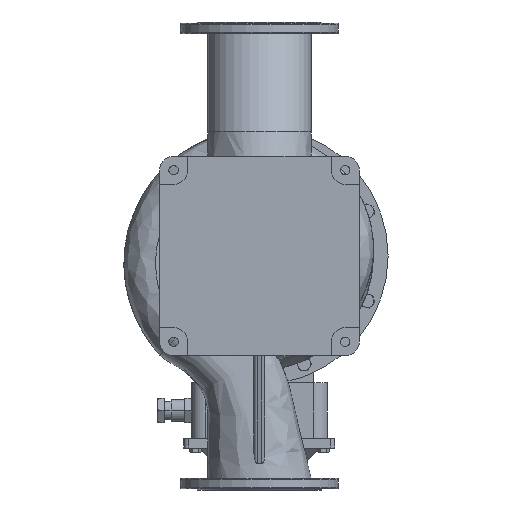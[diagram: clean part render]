
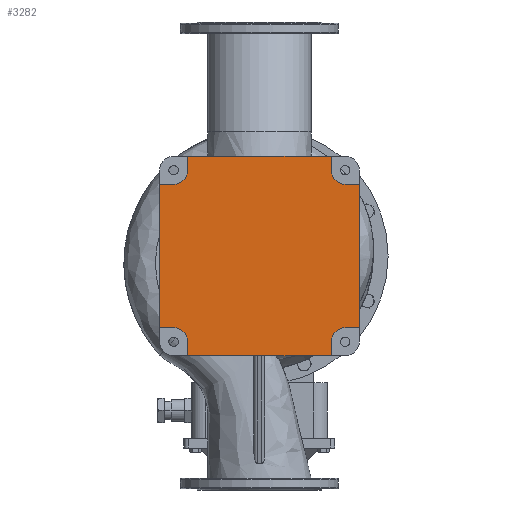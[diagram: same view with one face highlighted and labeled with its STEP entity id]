
A CAD part, front view. The second image highlights one B-rep face of the part: STEP entity #3282.
In plain terms, the highlighted planar face has unit normal (0, -1, 0).
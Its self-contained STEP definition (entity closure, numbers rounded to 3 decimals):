
#345 = DIRECTION ( 'NONE',  ( 0., 0., 1. ) ) ;
#387 = CARTESIAN_POINT ( 'NONE',  ( 220., -300., 184. ) ) ;
#593 = VERTEX_POINT ( 'NONE', #55317 ) ;
#840 = DIRECTION ( 'NONE',  ( 0., 1., 0. ) ) ;
#1957 = EDGE_CURVE ( 'NONE', #16776, #57555, #81527, .T. ) ;
#2641 = LINE ( 'NONE', #44818, #48955 ) ;
#3282 = ADVANCED_FACE ( 'NONE', ( #82302 ), #50288, .F. ) ;
#3420 = DIRECTION ( 'NONE',  ( 0., 0., 1. ) ) ;
#4261 = ORIENTED_EDGE ( 'NONE', *, *, #35806, .T. ) ;
#4484 = DIRECTION ( 'NONE',  ( -1., 0., 0. ) ) ;
#4730 = CARTESIAN_POINT ( 'NONE',  ( -184., -300., -220. ) ) ;
#5391 = EDGE_CURVE ( 'NONE', #26889, #26450, #72721, .T. ) ;
#5408 = VERTEX_POINT ( 'NONE', #18073 ) ;
#5453 = DIRECTION ( 'NONE',  ( 0., 0., -1. ) ) ;
#6338 = AXIS2_PLACEMENT_3D ( 'NONE', #28287, #68744, #345 ) ;
#6644 = CARTESIAN_POINT ( 'NONE',  ( 220., -300., -220. ) ) ;
#6758 = ORIENTED_EDGE ( 'NONE', *, *, #30969, .T. ) ;
#7987 = LINE ( 'NONE', #70183, #81498 ) ;
#9329 = DIRECTION ( 'NONE',  ( -1., 0., 0. ) ) ;
#9587 = ORIENTED_EDGE ( 'NONE', *, *, #62488, .T. ) ;
#9865 = VECTOR ( 'NONE', #5453, 1000. ) ;
#10269 = CARTESIAN_POINT ( 'NONE',  ( -184., -300., 256. ) ) ;
#10494 = EDGE_CURVE ( 'NONE', #63397, #16776, #84573, .T. ) ;
#10962 = EDGE_CURVE ( 'NONE', #50257, #28113, #58689, .T. ) ;
#11156 = AXIS2_PLACEMENT_3D ( 'NONE', #83531, #49314, #36842 ) ;
#13899 = VECTOR ( 'NONE', #46144, 1000. ) ;
#13978 = DIRECTION ( 'NONE',  ( 0., 0., 1. ) ) ;
#14324 = VECTOR ( 'NONE', #17032, 1000. ) ;
#15206 = DIRECTION ( 'NONE',  ( 1., 0., 0. ) ) ;
#15741 = CARTESIAN_POINT ( 'NONE',  ( -184., -300., -256. ) ) ;
#16776 = VERTEX_POINT ( 'NONE', #85662 ) ;
#17032 = DIRECTION ( 'NONE',  ( 1., 0., 0. ) ) ;
#17637 = DIRECTION ( 'NONE',  ( 0., 0., -1. ) ) ;
#18073 = CARTESIAN_POINT ( 'NONE',  ( -184., -300., 220. ) ) ;
#21677 = CARTESIAN_POINT ( 'NONE',  ( 256., -300., 184. ) ) ;
#22102 = EDGE_LOOP ( 'NONE', ( #29423, #61268, #47093, #35891, #44607, #82048, #84438, #53896, #9587, #29379, #28177, #4261, #56662, #29519, #42071, #6758 ) ) ;
#22695 = CARTESIAN_POINT ( 'NONE',  ( 184., -300., -220. ) ) ;
#23687 = CARTESIAN_POINT ( 'NONE',  ( 220., -300., -184. ) ) ;
#26267 = DIRECTION ( 'NONE',  ( 1., 0., 0. ) ) ;
#26302 = LINE ( 'NONE', #67194, #62200 ) ;
#26450 = VERTEX_POINT ( 'NONE', #15741 ) ;
#26543 = CARTESIAN_POINT ( 'NONE',  ( 184., -300., 220. ) ) ;
#26630 = CARTESIAN_POINT ( 'NONE',  ( -256., -300., 184. ) ) ;
#26889 = VERTEX_POINT ( 'NONE', #4730 ) ;
#28113 = VERTEX_POINT ( 'NONE', #40337 ) ;
#28177 = ORIENTED_EDGE ( 'NONE', *, *, #10962, .T. ) ;
#28287 = CARTESIAN_POINT ( 'NONE',  ( -220., -300., 220. ) ) ;
#29379 = ORIENTED_EDGE ( 'NONE', *, *, #34402, .T. ) ;
#29423 = ORIENTED_EDGE ( 'NONE', *, *, #44650, .T. ) ;
#29519 = ORIENTED_EDGE ( 'NONE', *, *, #74530, .T. ) ;
#30459 = CARTESIAN_POINT ( 'NONE',  ( -220., -300., 184. ) ) ;
#30969 = EDGE_CURVE ( 'NONE', #74028, #74114, #53839, .T. ) ;
#31024 = VERTEX_POINT ( 'NONE', #22695 ) ;
#32932 = CARTESIAN_POINT ( 'NONE',  ( -220., -300., -184. ) ) ;
#34402 = EDGE_CURVE ( 'NONE', #593, #50257, #79478, .T. ) ;
#34441 = DIRECTION ( 'NONE',  ( 0., 0., -1. ) ) ;
#34868 = LINE ( 'NONE', #62002, #51189 ) ;
#35806 = EDGE_CURVE ( 'NONE', #28113, #5408, #72555, .T. ) ;
#35891 = ORIENTED_EDGE ( 'NONE', *, *, #46380, .T. ) ;
#36842 = DIRECTION ( 'NONE',  ( 0., 0., 1. ) ) ;
#39762 = CARTESIAN_POINT ( 'NONE',  ( -220., -300., -184. ) ) ;
#39921 = EDGE_CURVE ( 'NONE', #73170, #74028, #34868, .T. ) ;
#40337 = CARTESIAN_POINT ( 'NONE',  ( -184., -300., 256. ) ) ;
#40413 = CARTESIAN_POINT ( 'NONE',  ( -220., -300., -220. ) ) ;
#42071 = ORIENTED_EDGE ( 'NONE', *, *, #39921, .T. ) ;
#43485 = DIRECTION ( 'NONE',  ( 1., 0., 0. ) ) ;
#43614 = DIRECTION ( 'NONE',  ( 0., 1., 0. ) ) ;
#44607 = ORIENTED_EDGE ( 'NONE', *, *, #84951, .T. ) ;
#44650 = EDGE_CURVE ( 'NONE', #74114, #26889, #65717, .T. ) ;
#44818 = CARTESIAN_POINT ( 'NONE',  ( 184., -300., -256. ) ) ;
#46144 = DIRECTION ( 'NONE',  ( 0., 0., 1. ) ) ;
#46380 = EDGE_CURVE ( 'NONE', #83906, #31024, #64284, .T. ) ;
#47093 = ORIENTED_EDGE ( 'NONE', *, *, #73440, .T. ) ;
#48530 = CARTESIAN_POINT ( 'NONE',  ( -220., -300., -220. ) ) ;
#48955 = VECTOR ( 'NONE', #43485, 1000. ) ;
#49314 = DIRECTION ( 'NONE',  ( 0., 1., 0. ) ) ;
#49807 = AXIS2_PLACEMENT_3D ( 'NONE', #6644, #840, #75046 ) ;
#50156 = AXIS2_PLACEMENT_3D ( 'NONE', #48530, #43614, #15206 ) ;
#50257 = VERTEX_POINT ( 'NONE', #55030 ) ;
#50288 = PLANE ( 'NONE',  #50156 ) ;
#51189 = VECTOR ( 'NONE', #34441, 1000. ) ;
#51399 = CARTESIAN_POINT ( 'NONE',  ( -184., -300., -220. ) ) ;
#51513 = AXIS2_PLACEMENT_3D ( 'NONE', #40413, #53329, #80429 ) ;
#53329 = DIRECTION ( 'NONE',  ( 0., 1., 0. ) ) ;
#53839 = LINE ( 'NONE', #32932, #86168 ) ;
#53871 = DIRECTION ( 'NONE',  ( -1., 0., 0. ) ) ;
#53896 = ORIENTED_EDGE ( 'NONE', *, *, #79486, .T. ) ;
#55030 = CARTESIAN_POINT ( 'NONE',  ( 184., -300., 256. ) ) ;
#55317 = CARTESIAN_POINT ( 'NONE',  ( 184., -300., 220. ) ) ;
#56662 = ORIENTED_EDGE ( 'NONE', *, *, #74882, .T. ) ;
#57555 = VERTEX_POINT ( 'NONE', #21677 ) ;
#57678 = VECTOR ( 'NONE', #13978, 1000. ) ;
#57958 = CIRCLE ( 'NONE', #11156, 36. ) ;
#58689 = LINE ( 'NONE', #10269, #71111 ) ;
#58839 = VERTEX_POINT ( 'NONE', #387 ) ;
#61268 = ORIENTED_EDGE ( 'NONE', *, *, #5391, .T. ) ;
#62002 = CARTESIAN_POINT ( 'NONE',  ( -256., -300., -184. ) ) ;
#62200 = VECTOR ( 'NONE', #53871, 1000. ) ;
#62488 = EDGE_CURVE ( 'NONE', #58839, #593, #57958, .T. ) ;
#62613 = CIRCLE ( 'NONE', #49807, 36. ) ;
#63397 = VERTEX_POINT ( 'NONE', #68412 ) ;
#64284 = LINE ( 'NONE', #84293, #81417 ) ;
#65717 = CIRCLE ( 'NONE', #51513, 36. ) ;
#65961 = CIRCLE ( 'NONE', #6338, 36. ) ;
#67194 = CARTESIAN_POINT ( 'NONE',  ( 220., -300., 184. ) ) ;
#68412 = CARTESIAN_POINT ( 'NONE',  ( 220., -300., -184. ) ) ;
#68744 = DIRECTION ( 'NONE',  ( 0., 1., 0. ) ) ;
#69474 = VERTEX_POINT ( 'NONE', #30459 ) ;
#69676 = CARTESIAN_POINT ( 'NONE',  ( 184., -300., -256. ) ) ;
#70183 = CARTESIAN_POINT ( 'NONE',  ( -220., -300., 184. ) ) ;
#71111 = VECTOR ( 'NONE', #4484, 1000. ) ;
#72555 = LINE ( 'NONE', #87628, #9865 ) ;
#72721 = LINE ( 'NONE', #51399, #85914 ) ;
#73170 = VERTEX_POINT ( 'NONE', #26630 ) ;
#73440 = EDGE_CURVE ( 'NONE', #26450, #83906, #2641, .T. ) ;
#74028 = VERTEX_POINT ( 'NONE', #76728 ) ;
#74114 = VERTEX_POINT ( 'NONE', #39762 ) ;
#74530 = EDGE_CURVE ( 'NONE', #69474, #73170, #7987, .T. ) ;
#74846 = CARTESIAN_POINT ( 'NONE',  ( 256., -300., 184. ) ) ;
#74882 = EDGE_CURVE ( 'NONE', #5408, #69474, #65961, .T. ) ;
#75046 = DIRECTION ( 'NONE',  ( 0., 0., 1. ) ) ;
#76728 = CARTESIAN_POINT ( 'NONE',  ( -256., -300., -184. ) ) ;
#79478 = LINE ( 'NONE', #26543, #13899 ) ;
#79486 = EDGE_CURVE ( 'NONE', #57555, #58839, #26302, .T. ) ;
#80429 = DIRECTION ( 'NONE',  ( 0., 0., 1. ) ) ;
#81417 = VECTOR ( 'NONE', #3420, 1000. ) ;
#81498 = VECTOR ( 'NONE', #9329, 1000. ) ;
#81527 = LINE ( 'NONE', #74846, #57678 ) ;
#82048 = ORIENTED_EDGE ( 'NONE', *, *, #10494, .T. ) ;
#82302 = FACE_OUTER_BOUND ( 'NONE', #22102, .T. ) ;
#83531 = CARTESIAN_POINT ( 'NONE',  ( 220., -300., 220. ) ) ;
#83906 = VERTEX_POINT ( 'NONE', #69676 ) ;
#84293 = CARTESIAN_POINT ( 'NONE',  ( 184., -300., -220. ) ) ;
#84438 = ORIENTED_EDGE ( 'NONE', *, *, #1957, .T. ) ;
#84573 = LINE ( 'NONE', #23687, #14324 ) ;
#84951 = EDGE_CURVE ( 'NONE', #31024, #63397, #62613, .T. ) ;
#85662 = CARTESIAN_POINT ( 'NONE',  ( 256., -300., -184. ) ) ;
#85914 = VECTOR ( 'NONE', #17637, 1000. ) ;
#86168 = VECTOR ( 'NONE', #26267, 1000. ) ;
#87628 = CARTESIAN_POINT ( 'NONE',  ( -184., -300., 220. ) ) ;
